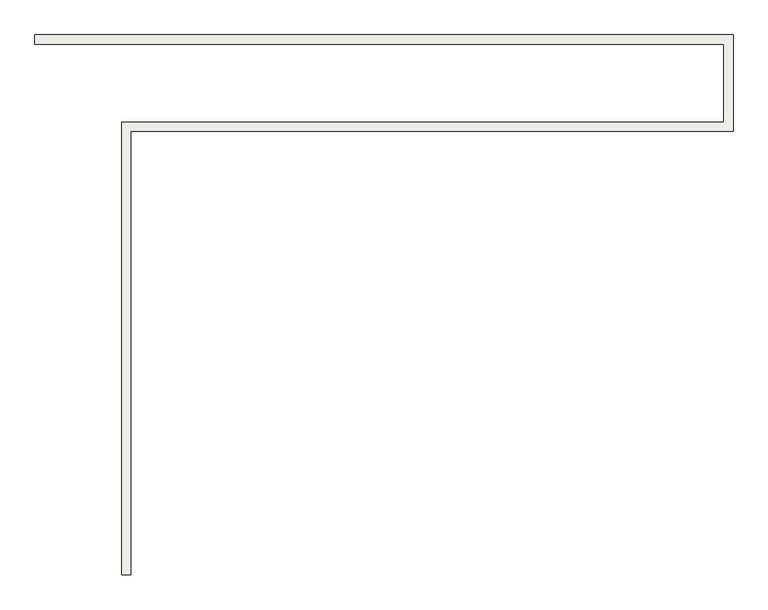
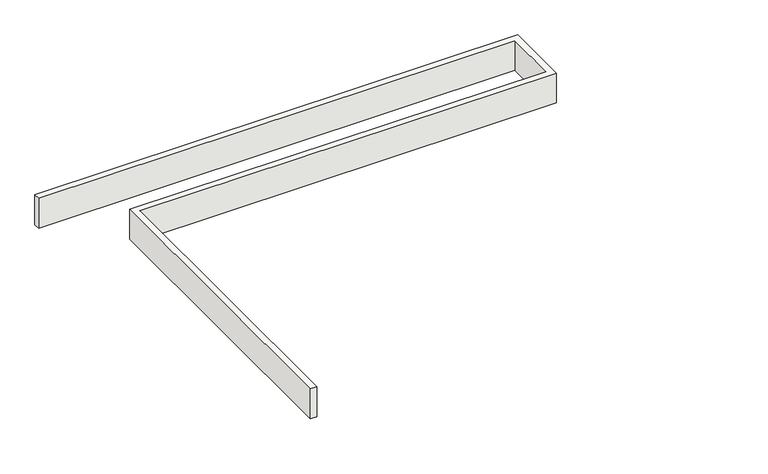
"""IFC4 building model written with IfcOpenShell, lengths in millimetres: roof geometry, banqueton1 : banqueton."""

from ifc_helpers import new_model, si_unit, origin, origin_with_axes, place, context, project, spatial, polyline, outline, extrude, source, transform, mapped, element, save


def roof_b6cbc9c0(model_context):
    return source(origin(), model_context, "Body", "SweptSolid", [
        extrude(outline(polyline([(34398.8589874, 31607.6393844), (34398.8589874, 31637.6393844), (36692.5589874, 31637.6393844), (36692.5589874, 31321.3005493), (34713.8589874, 31321.3005493), (34713.8589874, 29864.010184), (34683.8589874, 29864.010184), (34683.8589874, 31351.3005493), (36662.5589874, 31351.3005493), (36662.5589874, 31607.6393844), (34398.8589874, 31607.6393844)])), origin_with_axes(), (0.0, 0.0, 1.0), 150.0),
    ])


if __name__ == "__main__":
    model = new_model("IFC4")
    model_context = context("Model", 3, world=origin())
    ifc_project = project(units=[si_unit("LENGTHUNIT", "METRE", prefix="MILLI")], contexts=[model_context])
    site = spatial("IfcSite", under=ifc_project)
    building = spatial("IfcBuilding", under=site)
    placement = place(None, origin())
    roof_shape = roof_b6cbc9c0(model_context)
    element("IfcRoof", 1, ObjectType="banqueton1 : banqueton", at=placement, inside=building, context=model_context, shape_type="MappedRepresentation", body=[
        mapped(roof_shape, transform((0.0, 0.0, 0.0), x_axis=(1.0, 0.0, 0.0), y_axis=(0.0, 1.0, 0.0), z_axis=(0.0, 0.0, 1.0))),
    ])
    save(model, "model.ifc")
